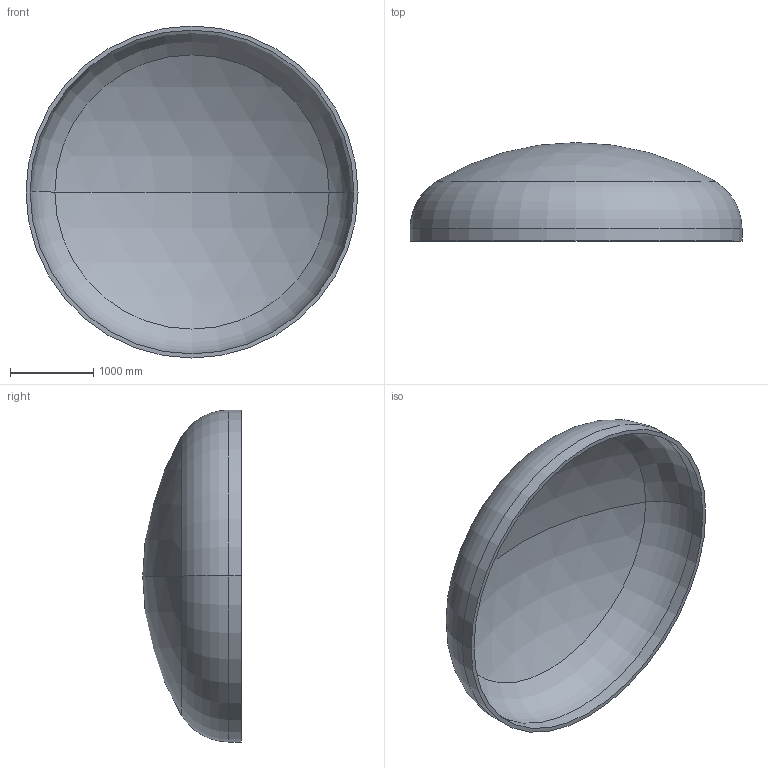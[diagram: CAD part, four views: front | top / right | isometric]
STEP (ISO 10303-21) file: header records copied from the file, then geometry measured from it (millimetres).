
FILE_DESCRIPTION (( 'STEP AP203' ), '1' );
FILE_NAME ('DIN 28013 Korbbogenform_-_Boden DIN 28013 - 4000 x 150 - I - s=50.step', '2016-07-01T22:29:54', ( '' ), ( '' ), 'SwSTEP 2.0', 'SolidWorks 2013', '' );
FILE_SCHEMA (( 'CONFIG_CONTROL_DESIGN' ));
Length unit declared in the file: millimetre
Products named in the file (1): DIN 28013 Korbbogenform_-_Boden DIN 28013 - 4000 x 150 - I - s=50
Bounding box: 4000 x 1186.41 x 4000 mm (x, y, z)
Volume: 948746568.4 mm3; surface area: 38575549.7 mm2
Topology: 1 solids, 1 shells, 13 faces, 24 edges, 14 vertices
Faces by surface type: torus 4, cylinder 4, sphere 4, plane 1
Entity records: 407 total; most frequent: DIRECTION 72, CARTESIAN_POINT 52, ORIENTED_EDGE 48, AXIS2_PLACEMENT_3D 34, EDGE_CURVE 24, CIRCLE 20, EDGE_LOOP 14, VERTEX_POINT 14
